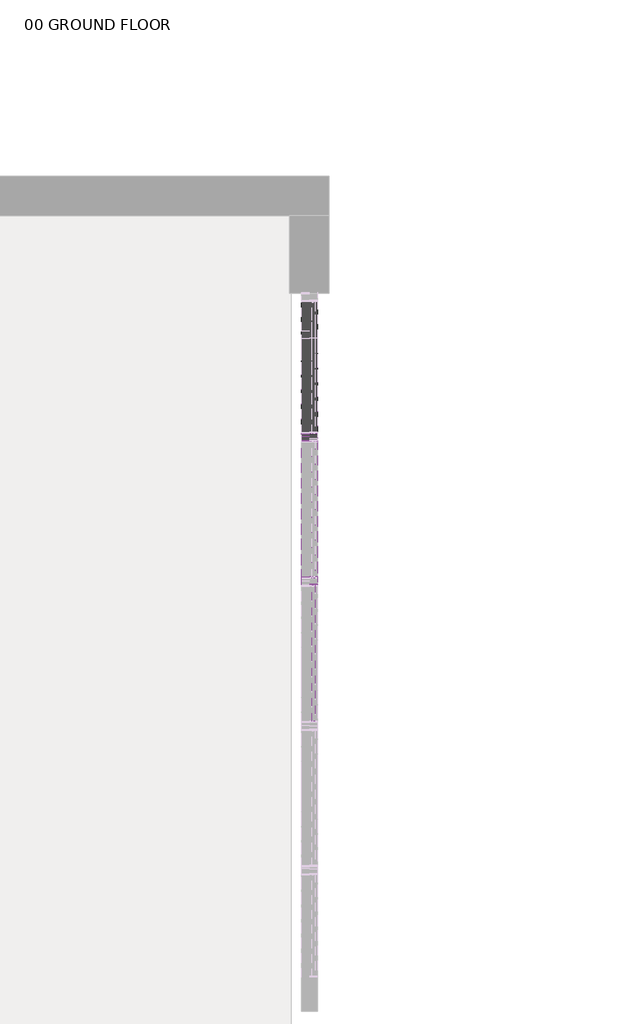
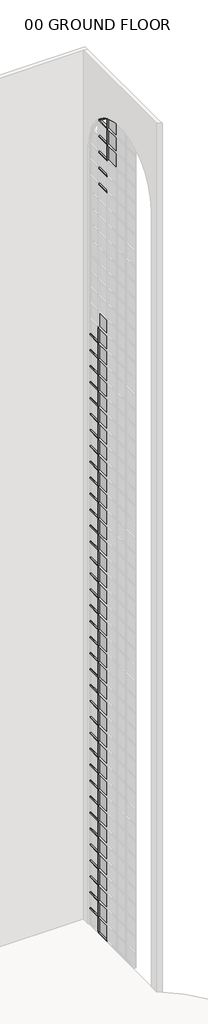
# One storey, part 31 of 33: 85 members, 42 plates.
"""IFC4 building model written with IfcOpenShell, lengths in millimetres."""

from ifc_helpers import new_model, si_unit, origin, place, context, project, spatial, transform, mapped, element, save
from components import member_14f97ceb, member_c70f70ef, member_d1490fb0, member_2b49869a, member_f6015b47, member_0202919b, system_panel_glazed_c90b0923, system_panel_glazed_ba000c98, system_panel_glazed_fea3c0e9

model = new_model("IFC4")

# Units and contexts
model_context = context("Model", 3, world=origin())
ifc_project = project(units=[si_unit("LENGTHUNIT", "METRE", prefix="MILLI")], contexts=[model_context])

# Site, building, storey
site = spatial("IfcSite", under=ifc_project)
building = spatial("IfcBuilding", under=site)
storey = spatial("IfcBuildingStorey", under=building, Name="00 GROUND FLOOR", Elevation=0.0)

# Members
placement = place(None, origin())
member_shape = member_14f97ceb(model_context)
element("IfcMember", 1, ObjectType="Rectangular Mullion : 2.5\" x 5\" rectangular", at=placement, inside=storey, context=model_context, shape_type="MappedRepresentation", body=[
    mapped(member_shape, transform((44184.4050515, 31910.1107141, 0.0), x_axis=(0.0, 0.0, -1.0), y_axis=(-1.0, 0.0, 0.0), z_axis=(0.0, 1.0, 0.0))),
])
member_2_shape = member_c70f70ef(model_context)
element("IfcMember", 2, ObjectType="Rectangular Mullion : 2.5\" x 5\" rectangular", at=placement, inside=storey, context=model_context, shape_type="MappedRepresentation", body=[
    mapped(member_2_shape, transform((44184.4050515, 31973.6107141, 1219.2), x_axis=(0.0, 0.0, 1.0), y_axis=(-1.0, 0.0, 0.0), z_axis=(0.0, -1.0, 0.0))),
])
element("IfcMember", 3, ObjectType="Rectangular Mullion : 2.5\" x 5\" rectangular", at=placement, inside=storey, context=model_context, shape_type="MappedRepresentation", body=[
    mapped(member_2_shape, transform((44184.4050515, 31973.6107141, 2438.4), x_axis=(0.0, 0.0, 1.0), y_axis=(-1.0, 0.0, 0.0), z_axis=(0.0, -1.0, 0.0))),
])
element("IfcMember", 4, ObjectType="Rectangular Mullion : 2.5\" x 5\" rectangular", at=placement, inside=storey, context=model_context, shape_type="MappedRepresentation", body=[
    mapped(member_2_shape, transform((44184.4050515, 31973.6107141, 3657.6), x_axis=(0.0, 0.0, 1.0), y_axis=(-1.0, 0.0, 0.0), z_axis=(0.0, -1.0, 0.0))),
])
element("IfcMember", 5, ObjectType="Rectangular Mullion : 2.5\" x 5\" rectangular", at=placement, inside=storey, context=model_context, shape_type="MappedRepresentation", body=[
    mapped(member_2_shape, transform((44184.4050515, 31973.6107141, 4876.8), x_axis=(0.0, 0.0, 1.0), y_axis=(-1.0, 0.0, 0.0), z_axis=(0.0, -1.0, 0.0))),
])
element("IfcMember", 6, ObjectType="Rectangular Mullion : 2.5\" x 5\" rectangular", at=placement, inside=storey, context=model_context, shape_type="MappedRepresentation", body=[
    mapped(member_2_shape, transform((44184.4050515, 31973.6107141, 6096.0), x_axis=(0.0, 0.0, 1.0), y_axis=(-1.0, 0.0, 0.0), z_axis=(0.0, -1.0, 0.0))),
])
element("IfcMember", 7, ObjectType="Rectangular Mullion : 2.5\" x 5\" rectangular", at=placement, inside=storey, context=model_context, shape_type="MappedRepresentation", body=[
    mapped(member_2_shape, transform((44184.4050515, 31973.6107141, 7315.2), x_axis=(0.0, 0.0, 1.0), y_axis=(-1.0, 0.0, 0.0), z_axis=(0.0, -1.0, 0.0))),
])
element("IfcMember", 8, ObjectType="Rectangular Mullion : 2.5\" x 5\" rectangular", at=placement, inside=storey, context=model_context, shape_type="MappedRepresentation", body=[
    mapped(member_2_shape, transform((44184.4050515, 31973.6107141, 8534.4), x_axis=(0.0, 0.0, 1.0), y_axis=(-1.0, 0.0, 0.0), z_axis=(0.0, -1.0, 0.0))),
])
element("IfcMember", 9, ObjectType="Rectangular Mullion : 2.5\" x 5\" rectangular", at=placement, inside=storey, context=model_context, shape_type="MappedRepresentation", body=[
    mapped(member_2_shape, transform((44184.4050515, 31973.6107141, 9753.6), x_axis=(0.0, 0.0, 1.0), y_axis=(-1.0, 0.0, 0.0), z_axis=(0.0, -1.0, 0.0))),
])
element("IfcMember", 10, ObjectType="Rectangular Mullion : 2.5\" x 5\" rectangular", at=placement, inside=storey, context=model_context, shape_type="MappedRepresentation", body=[
    mapped(member_2_shape, transform((44184.4050515, 31973.6107141, 10972.8), x_axis=(0.0, 0.0, 1.0), y_axis=(-1.0, 0.0, 0.0), z_axis=(0.0, -1.0, 0.0))),
])
element("IfcMember", 11, ObjectType="Rectangular Mullion : 2.5\" x 5\" rectangular", at=placement, inside=storey, context=model_context, shape_type="MappedRepresentation", body=[
    mapped(member_2_shape, transform((44184.4050515, 31973.6107141, 12192.0), x_axis=(0.0, 0.0, 1.0), y_axis=(-1.0, 0.0, 0.0), z_axis=(0.0, -1.0, 0.0))),
])
element("IfcMember", 12, ObjectType="Rectangular Mullion : 2.5\" x 5\" rectangular", at=placement, inside=storey, context=model_context, shape_type="MappedRepresentation", body=[
    mapped(member_2_shape, transform((44184.4050515, 31973.6107141, 13411.2), x_axis=(0.0, 0.0, 1.0), y_axis=(-1.0, 0.0, 0.0), z_axis=(0.0, -1.0, 0.0))),
])
element("IfcMember", 13, ObjectType="Rectangular Mullion : 2.5\" x 5\" rectangular", at=placement, inside=storey, context=model_context, shape_type="MappedRepresentation", body=[
    mapped(member_2_shape, transform((44184.4050515, 31973.6107141, 14630.4), x_axis=(0.0, 0.0, 1.0), y_axis=(-1.0, 0.0, 0.0), z_axis=(0.0, -1.0, 0.0))),
])
element("IfcMember", 14, ObjectType="Rectangular Mullion : 2.5\" x 5\" rectangular", at=placement, inside=storey, context=model_context, shape_type="MappedRepresentation", body=[
    mapped(member_2_shape, transform((44184.4050515, 31973.6107141, 15849.6), x_axis=(0.0, 0.0, 1.0), y_axis=(-1.0, 0.0, 0.0), z_axis=(0.0, -1.0, 0.0))),
])
element("IfcMember", 15, ObjectType="Rectangular Mullion : 2.5\" x 5\" rectangular", at=placement, inside=storey, context=model_context, shape_type="MappedRepresentation", body=[
    mapped(member_2_shape, transform((44184.4050515, 31973.6107141, 17068.8), x_axis=(0.0, 0.0, 1.0), y_axis=(-1.0, 0.0, 0.0), z_axis=(0.0, -1.0, 0.0))),
])
element("IfcMember", 16, ObjectType="Rectangular Mullion : 2.5\" x 5\" rectangular", at=placement, inside=storey, context=model_context, shape_type="MappedRepresentation", body=[
    mapped(member_2_shape, transform((44184.4050515, 31973.6107141, 18288.0), x_axis=(0.0, 0.0, 1.0), y_axis=(-1.0, 0.0, 0.0), z_axis=(0.0, -1.0, 0.0))),
])
element("IfcMember", 17, ObjectType="Rectangular Mullion : 2.5\" x 5\" rectangular", at=placement, inside=storey, context=model_context, shape_type="MappedRepresentation", body=[
    mapped(member_2_shape, transform((44184.4050515, 31973.6107141, 19507.2), x_axis=(0.0, 0.0, 1.0), y_axis=(-1.0, 0.0, 0.0), z_axis=(0.0, -1.0, 0.0))),
])
element("IfcMember", 18, ObjectType="Rectangular Mullion : 2.5\" x 5\" rectangular", at=placement, inside=storey, context=model_context, shape_type="MappedRepresentation", body=[
    mapped(member_2_shape, transform((44184.4050515, 31973.6107141, 20726.4), x_axis=(0.0, 0.0, 1.0), y_axis=(-1.0, 0.0, 0.0), z_axis=(0.0, -1.0, 0.0))),
])
element("IfcMember", 19, ObjectType="Rectangular Mullion : 2.5\" x 5\" rectangular", at=placement, inside=storey, context=model_context, shape_type="MappedRepresentation", body=[
    mapped(member_2_shape, transform((44184.4050515, 31973.6107141, 21945.6), x_axis=(0.0, 0.0, 1.0), y_axis=(-1.0, 0.0, 0.0), z_axis=(0.0, -1.0, 0.0))),
])
element("IfcMember", 20, ObjectType="Rectangular Mullion : 2.5\" x 5\" rectangular", at=placement, inside=storey, context=model_context, shape_type="MappedRepresentation", body=[
    mapped(member_2_shape, transform((44184.4050515, 31973.6107141, 23164.8), x_axis=(0.0, 0.0, 1.0), y_axis=(-1.0, 0.0, 0.0), z_axis=(0.0, -1.0, 0.0))),
])
element("IfcMember", 21, ObjectType="Rectangular Mullion : 2.5\" x 5\" rectangular", at=placement, inside=storey, context=model_context, shape_type="MappedRepresentation", body=[
    mapped(member_2_shape, transform((44184.4050515, 31973.6107141, 24384.0), x_axis=(0.0, 0.0, 1.0), y_axis=(-1.0, 0.0, 0.0), z_axis=(0.0, -1.0, 0.0))),
])
element("IfcMember", 22, ObjectType="Rectangular Mullion : 2.5\" x 5\" rectangular", at=placement, inside=storey, context=model_context, shape_type="MappedRepresentation", body=[
    mapped(member_2_shape, transform((44184.4050515, 31973.6107141, 25603.2), x_axis=(0.0, 0.0, 1.0), y_axis=(-1.0, 0.0, 0.0), z_axis=(0.0, -1.0, 0.0))),
])
element("IfcMember", 23, ObjectType="Rectangular Mullion : 2.5\" x 5\" rectangular", at=placement, inside=storey, context=model_context, shape_type="MappedRepresentation", body=[
    mapped(member_2_shape, transform((44184.4050515, 31973.6107141, 26822.4), x_axis=(0.0, 0.0, 1.0), y_axis=(-1.0, 0.0, 0.0), z_axis=(0.0, -1.0, 0.0))),
])
element("IfcMember", 24, ObjectType="Rectangular Mullion : 2.5\" x 5\" rectangular", at=placement, inside=storey, context=model_context, shape_type="MappedRepresentation", body=[
    mapped(member_2_shape, transform((44184.4050515, 31973.6107141, 28041.6), x_axis=(0.0, 0.0, 1.0), y_axis=(-1.0, 0.0, 0.0), z_axis=(0.0, -1.0, 0.0))),
])
element("IfcMember", 25, ObjectType="Rectangular Mullion : 2.5\" x 5\" rectangular", at=placement, inside=storey, context=model_context, shape_type="MappedRepresentation", body=[
    mapped(member_2_shape, transform((44184.4050515, 31973.6107141, 29260.8), x_axis=(0.0, 0.0, 1.0), y_axis=(-1.0, 0.0, 0.0), z_axis=(0.0, -1.0, 0.0))),
])
element("IfcMember", 26, ObjectType="Rectangular Mullion : 2.5\" x 5\" rectangular", at=placement, inside=storey, context=model_context, shape_type="MappedRepresentation", body=[
    mapped(member_2_shape, transform((44184.4050515, 31973.6107141, 30480.0), x_axis=(0.0, 0.0, 1.0), y_axis=(-1.0, 0.0, 0.0), z_axis=(0.0, -1.0, 0.0))),
])
element("IfcMember", 27, ObjectType="Rectangular Mullion : 2.5\" x 5\" rectangular", at=placement, inside=storey, context=model_context, shape_type="MappedRepresentation", body=[
    mapped(member_2_shape, transform((44184.4050515, 31973.6107141, 31699.2), x_axis=(0.0, 0.0, 1.0), y_axis=(-1.0, 0.0, 0.0), z_axis=(0.0, -1.0, 0.0))),
])
element("IfcMember", 28, ObjectType="Rectangular Mullion : 2.5\" x 5\" rectangular", at=placement, inside=storey, context=model_context, shape_type="MappedRepresentation", body=[
    mapped(member_2_shape, transform((44184.4050515, 31973.6107141, 32918.4), x_axis=(0.0, 0.0, 1.0), y_axis=(-1.0, 0.0, 0.0), z_axis=(0.0, -1.0, 0.0))),
])
element("IfcMember", 29, ObjectType="Rectangular Mullion : 2.5\" x 5\" rectangular", at=placement, inside=storey, context=model_context, shape_type="MappedRepresentation", body=[
    mapped(member_2_shape, transform((44184.4050515, 31973.6107141, 34137.6), x_axis=(0.0, 0.0, 1.0), y_axis=(-1.0, 0.0, 0.0), z_axis=(0.0, -1.0, 0.0))),
])
element("IfcMember", 30, ObjectType="Rectangular Mullion : 2.5\" x 5\" rectangular", at=placement, inside=storey, context=model_context, shape_type="MappedRepresentation", body=[
    mapped(member_2_shape, transform((44184.4050515, 31973.6107141, 35356.8), x_axis=(0.0, 0.0, 1.0), y_axis=(-1.0, 0.0, 0.0), z_axis=(0.0, -1.0, 0.0))),
])
element("IfcMember", 31, ObjectType="Rectangular Mullion : 2.5\" x 5\" rectangular", at=placement, inside=storey, context=model_context, shape_type="MappedRepresentation", body=[
    mapped(member_2_shape, transform((44184.4050515, 31973.6107141, 36576.0), x_axis=(0.0, 0.0, 1.0), y_axis=(-1.0, 0.0, 0.0), z_axis=(0.0, -1.0, 0.0))),
])
element("IfcMember", 32, ObjectType="Rectangular Mullion : 2.5\" x 5\" rectangular", at=placement, inside=storey, context=model_context, shape_type="MappedRepresentation", body=[
    mapped(member_2_shape, transform((44184.4050515, 31973.6107141, 37795.2), x_axis=(0.0, 0.0, 1.0), y_axis=(-1.0, 0.0, 0.0), z_axis=(0.0, -1.0, 0.0))),
])
element("IfcMember", 33, ObjectType="Rectangular Mullion : 2.5\" x 5\" rectangular", at=placement, inside=storey, context=model_context, shape_type="MappedRepresentation", body=[
    mapped(member_2_shape, transform((44184.4050515, 31973.6107141, 39014.4), x_axis=(0.0, 0.0, 1.0), y_axis=(-1.0, 0.0, 0.0), z_axis=(0.0, -1.0, 0.0))),
])
element("IfcMember", 34, ObjectType="Rectangular Mullion : 2.5\" x 5\" rectangular", at=placement, inside=storey, context=model_context, shape_type="MappedRepresentation", body=[
    mapped(member_2_shape, transform((44184.4050515, 31973.6107141, 40233.6), x_axis=(0.0, 0.0, 1.0), y_axis=(-1.0, 0.0, 0.0), z_axis=(0.0, -1.0, 0.0))),
])
element("IfcMember", 35, ObjectType="Rectangular Mullion : 2.5\" x 5\" rectangular", at=placement, inside=storey, context=model_context, shape_type="MappedRepresentation", body=[
    mapped(member_2_shape, transform((44184.4050515, 31973.6107141, 41452.8), x_axis=(0.0, 0.0, 1.0), y_axis=(-1.0, 0.0, 0.0), z_axis=(0.0, -1.0, 0.0))),
])
element("IfcMember", 36, ObjectType="Rectangular Mullion : 2.5\" x 5\" rectangular", at=placement, inside=storey, context=model_context, shape_type="MappedRepresentation", body=[
    mapped(member_2_shape, transform((44184.4050515, 31973.6107141, 42672.0), x_axis=(0.0, 0.0, 1.0), y_axis=(-1.0, 0.0, 0.0), z_axis=(0.0, -1.0, 0.0))),
])
element("IfcMember", 37, ObjectType="Rectangular Mullion : 2.5\" x 5\" rectangular", at=placement, inside=storey, context=model_context, shape_type="MappedRepresentation", body=[
    mapped(member_2_shape, transform((44184.4050515, 31973.6107141, 43891.2), x_axis=(0.0, 0.0, 1.0), y_axis=(-1.0, 0.0, 0.0), z_axis=(0.0, -1.0, 0.0))),
])
element("IfcMember", 38, ObjectType="Rectangular Mullion : 2.5\" x 5\" rectangular", at=placement, inside=storey, context=model_context, shape_type="MappedRepresentation", body=[
    mapped(member_2_shape, transform((44184.4050515, 31973.6107141, 45110.4), x_axis=(0.0, 0.0, 1.0), y_axis=(-1.0, 0.0, 0.0), z_axis=(0.0, -1.0, 0.0))),
])
member_3_shape = member_d1490fb0(model_context)
element("IfcMember", 39, ObjectType="Rectangular Mullion : 2.5\" x 5\" rectangular", at=placement, inside=storey, context=model_context, shape_type="MappedRepresentation", body=[
    mapped(member_3_shape, transform((44184.4050515, 30841.4964284, 57302.4), x_axis=(0.0, 0.0, 1.0), y_axis=(-1.0, 0.0, 0.0), z_axis=(0.0, -1.0, 0.0))),
])
element("IfcMember", 40, ObjectType="Rectangular Mullion : 2.5\" x 5\" rectangular", at=placement, inside=storey, context=model_context, shape_type="MappedRepresentation", body=[
    mapped(member_3_shape, transform((44184.4050515, 30841.4964284, 58521.6), x_axis=(0.0, 0.0, 1.0), y_axis=(-1.0, 0.0, 0.0), z_axis=(0.0, -1.0, 0.0))),
])
element("IfcMember", 41, ObjectType="Rectangular Mullion : 2.5\" x 5\" rectangular", at=placement, inside=storey, context=model_context, shape_type="MappedRepresentation", body=[
    mapped(member_3_shape, transform((44184.4050515, 30841.4964284, 59740.8), x_axis=(0.0, 0.0, 1.0), y_axis=(-1.0, 0.0, 0.0), z_axis=(0.0, -1.0, 0.0))),
])
element("IfcMember", 42, ObjectType="Rectangular Mullion : 2.5\" x 5\" rectangular", at=placement, inside=storey, context=model_context, shape_type="MappedRepresentation", body=[
    mapped(member_3_shape, transform((44184.4050515, 30841.4964284, 60960.0), x_axis=(0.0, 0.0, 1.0), y_axis=(-1.0, 0.0, 0.0), z_axis=(0.0, -1.0, 0.0))),
])
element("IfcMember", 43, ObjectType="Rectangular Mullion : 2.5\" x 5\" rectangular", at=placement, inside=storey, context=model_context, shape_type="MappedRepresentation", body=[
    mapped(member_3_shape, transform((44184.4050515, 30841.4964284, 62179.2), x_axis=(0.0, 0.0, 1.0), y_axis=(-1.0, 0.0, 0.0), z_axis=(0.0, -1.0, 0.0))),
])
member_4_shape = member_2b49869a(model_context)
element("IfcMember", 44, ObjectType="Rectangular Mullion : 2.5\" x 5\" rectangular", at=placement, inside=storey, context=model_context, shape_type="MappedRepresentation", body=[
    mapped(member_4_shape, transform((44184.4050515, 31941.8607141, 0.0), x_axis=(0.0, -1.0, 0.0), y_axis=(-1.0, 0.0, 0.0), z_axis=(0.0, 0.0, -1.0))),
])
element("IfcMember", 45, ObjectType="Rectangular Mullion : 2.5\" x 5\" rectangular", at=placement, inside=storey, context=model_context, shape_type="MappedRepresentation", body=[
    mapped(member_4_shape, transform((44184.4050515, 31941.8607141, 1219.2), x_axis=(0.0, -1.0, 0.0), y_axis=(-1.0, 0.0, 0.0), z_axis=(0.0, 0.0, -1.0))),
])
element("IfcMember", 46, ObjectType="Rectangular Mullion : 2.5\" x 5\" rectangular", at=placement, inside=storey, context=model_context, shape_type="MappedRepresentation", body=[
    mapped(member_4_shape, transform((44184.4050515, 31941.8607141, 2438.4), x_axis=(0.0, -1.0, 0.0), y_axis=(-1.0, 0.0, 0.0), z_axis=(0.0, 0.0, -1.0))),
])
element("IfcMember", 47, ObjectType="Rectangular Mullion : 2.5\" x 5\" rectangular", at=placement, inside=storey, context=model_context, shape_type="MappedRepresentation", body=[
    mapped(member_4_shape, transform((44184.4050515, 31941.8607141, 3657.6), x_axis=(0.0, -1.0, 0.0), y_axis=(-1.0, 0.0, 0.0), z_axis=(0.0, 0.0, -1.0))),
])
element("IfcMember", 48, ObjectType="Rectangular Mullion : 2.5\" x 5\" rectangular", at=placement, inside=storey, context=model_context, shape_type="MappedRepresentation", body=[
    mapped(member_4_shape, transform((44184.4050515, 31941.8607141, 4876.8), x_axis=(0.0, -1.0, 0.0), y_axis=(-1.0, 0.0, 0.0), z_axis=(0.0, 0.0, -1.0))),
])
element("IfcMember", 49, ObjectType="Rectangular Mullion : 2.5\" x 5\" rectangular", at=placement, inside=storey, context=model_context, shape_type="MappedRepresentation", body=[
    mapped(member_4_shape, transform((44184.4050515, 31941.8607141, 6096.0), x_axis=(0.0, -1.0, 0.0), y_axis=(-1.0, 0.0, 0.0), z_axis=(0.0, 0.0, -1.0))),
])
element("IfcMember", 50, ObjectType="Rectangular Mullion : 2.5\" x 5\" rectangular", at=placement, inside=storey, context=model_context, shape_type="MappedRepresentation", body=[
    mapped(member_4_shape, transform((44184.4050515, 31941.8607141, 7315.2), x_axis=(0.0, -1.0, 0.0), y_axis=(-1.0, 0.0, 0.0), z_axis=(0.0, 0.0, -1.0))),
])
element("IfcMember", 51, ObjectType="Rectangular Mullion : 2.5\" x 5\" rectangular", at=placement, inside=storey, context=model_context, shape_type="MappedRepresentation", body=[
    mapped(member_4_shape, transform((44184.4050515, 31941.8607141, 8534.4), x_axis=(0.0, -1.0, 0.0), y_axis=(-1.0, 0.0, 0.0), z_axis=(0.0, 0.0, -1.0))),
])
element("IfcMember", 52, ObjectType="Rectangular Mullion : 2.5\" x 5\" rectangular", at=placement, inside=storey, context=model_context, shape_type="MappedRepresentation", body=[
    mapped(member_4_shape, transform((44184.4050515, 31941.8607141, 9753.6), x_axis=(0.0, -1.0, 0.0), y_axis=(-1.0, 0.0, 0.0), z_axis=(0.0, 0.0, -1.0))),
])
element("IfcMember", 53, ObjectType="Rectangular Mullion : 2.5\" x 5\" rectangular", at=placement, inside=storey, context=model_context, shape_type="MappedRepresentation", body=[
    mapped(member_4_shape, transform((44184.4050515, 31941.8607141, 10972.8), x_axis=(0.0, -1.0, 0.0), y_axis=(-1.0, 0.0, 0.0), z_axis=(0.0, 0.0, -1.0))),
])
element("IfcMember", 54, ObjectType="Rectangular Mullion : 2.5\" x 5\" rectangular", at=placement, inside=storey, context=model_context, shape_type="MappedRepresentation", body=[
    mapped(member_4_shape, transform((44184.4050515, 31941.8607141, 12192.0), x_axis=(0.0, -1.0, 0.0), y_axis=(-1.0, 0.0, 0.0), z_axis=(0.0, 0.0, -1.0))),
])
element("IfcMember", 55, ObjectType="Rectangular Mullion : 2.5\" x 5\" rectangular", at=placement, inside=storey, context=model_context, shape_type="MappedRepresentation", body=[
    mapped(member_4_shape, transform((44184.4050515, 31941.8607141, 13411.2), x_axis=(0.0, -1.0, 0.0), y_axis=(-1.0, 0.0, 0.0), z_axis=(0.0, 0.0, -1.0))),
])
element("IfcMember", 56, ObjectType="Rectangular Mullion : 2.5\" x 5\" rectangular", at=placement, inside=storey, context=model_context, shape_type="MappedRepresentation", body=[
    mapped(member_4_shape, transform((44184.4050515, 31941.8607141, 14630.4), x_axis=(0.0, -1.0, 0.0), y_axis=(-1.0, 0.0, 0.0), z_axis=(0.0, 0.0, -1.0))),
])
element("IfcMember", 57, ObjectType="Rectangular Mullion : 2.5\" x 5\" rectangular", at=placement, inside=storey, context=model_context, shape_type="MappedRepresentation", body=[
    mapped(member_4_shape, transform((44184.4050515, 31941.8607141, 15849.6), x_axis=(0.0, -1.0, 0.0), y_axis=(-1.0, 0.0, 0.0), z_axis=(0.0, 0.0, -1.0))),
])
element("IfcMember", 58, ObjectType="Rectangular Mullion : 2.5\" x 5\" rectangular", at=placement, inside=storey, context=model_context, shape_type="MappedRepresentation", body=[
    mapped(member_4_shape, transform((44184.4050515, 31941.8607141, 17068.8), x_axis=(0.0, -1.0, 0.0), y_axis=(-1.0, 0.0, 0.0), z_axis=(0.0, 0.0, -1.0))),
])
element("IfcMember", 59, ObjectType="Rectangular Mullion : 2.5\" x 5\" rectangular", at=placement, inside=storey, context=model_context, shape_type="MappedRepresentation", body=[
    mapped(member_4_shape, transform((44184.4050515, 31941.8607141, 18288.0), x_axis=(0.0, -1.0, 0.0), y_axis=(-1.0, 0.0, 0.0), z_axis=(0.0, 0.0, -1.0))),
])
element("IfcMember", 60, ObjectType="Rectangular Mullion : 2.5\" x 5\" rectangular", at=placement, inside=storey, context=model_context, shape_type="MappedRepresentation", body=[
    mapped(member_4_shape, transform((44184.4050515, 31941.8607141, 19507.2), x_axis=(0.0, -1.0, 0.0), y_axis=(-1.0, 0.0, 0.0), z_axis=(0.0, 0.0, -1.0))),
])
element("IfcMember", 61, ObjectType="Rectangular Mullion : 2.5\" x 5\" rectangular", at=placement, inside=storey, context=model_context, shape_type="MappedRepresentation", body=[
    mapped(member_4_shape, transform((44184.4050515, 31941.8607141, 20726.4), x_axis=(0.0, -1.0, 0.0), y_axis=(-1.0, 0.0, 0.0), z_axis=(0.0, 0.0, -1.0))),
])
element("IfcMember", 62, ObjectType="Rectangular Mullion : 2.5\" x 5\" rectangular", at=placement, inside=storey, context=model_context, shape_type="MappedRepresentation", body=[
    mapped(member_4_shape, transform((44184.4050515, 31941.8607141, 21945.6), x_axis=(0.0, -1.0, 0.0), y_axis=(-1.0, 0.0, 0.0), z_axis=(0.0, 0.0, -1.0))),
])
element("IfcMember", 63, ObjectType="Rectangular Mullion : 2.5\" x 5\" rectangular", at=placement, inside=storey, context=model_context, shape_type="MappedRepresentation", body=[
    mapped(member_4_shape, transform((44184.4050515, 31941.8607141, 23164.8), x_axis=(0.0, -1.0, 0.0), y_axis=(-1.0, 0.0, 0.0), z_axis=(0.0, 0.0, -1.0))),
])
element("IfcMember", 64, ObjectType="Rectangular Mullion : 2.5\" x 5\" rectangular", at=placement, inside=storey, context=model_context, shape_type="MappedRepresentation", body=[
    mapped(member_4_shape, transform((44184.4050515, 31941.8607141, 24384.0), x_axis=(0.0, -1.0, 0.0), y_axis=(-1.0, 0.0, 0.0), z_axis=(0.0, 0.0, -1.0))),
])
element("IfcMember", 65, ObjectType="Rectangular Mullion : 2.5\" x 5\" rectangular", at=placement, inside=storey, context=model_context, shape_type="MappedRepresentation", body=[
    mapped(member_4_shape, transform((44184.4050515, 31941.8607141, 25603.2), x_axis=(0.0, -1.0, 0.0), y_axis=(-1.0, 0.0, 0.0), z_axis=(0.0, 0.0, -1.0))),
])
element("IfcMember", 66, ObjectType="Rectangular Mullion : 2.5\" x 5\" rectangular", at=placement, inside=storey, context=model_context, shape_type="MappedRepresentation", body=[
    mapped(member_4_shape, transform((44184.4050515, 31941.8607141, 26822.4), x_axis=(0.0, -1.0, 0.0), y_axis=(-1.0, 0.0, 0.0), z_axis=(0.0, 0.0, -1.0))),
])
element("IfcMember", 67, ObjectType="Rectangular Mullion : 2.5\" x 5\" rectangular", at=placement, inside=storey, context=model_context, shape_type="MappedRepresentation", body=[
    mapped(member_4_shape, transform((44184.4050515, 31941.8607141, 28041.6), x_axis=(0.0, -1.0, 0.0), y_axis=(-1.0, 0.0, 0.0), z_axis=(0.0, 0.0, -1.0))),
])
element("IfcMember", 68, ObjectType="Rectangular Mullion : 2.5\" x 5\" rectangular", at=placement, inside=storey, context=model_context, shape_type="MappedRepresentation", body=[
    mapped(member_4_shape, transform((44184.4050515, 31941.8607141, 29260.8), x_axis=(0.0, -1.0, 0.0), y_axis=(-1.0, 0.0, 0.0), z_axis=(0.0, 0.0, -1.0))),
])
element("IfcMember", 69, ObjectType="Rectangular Mullion : 2.5\" x 5\" rectangular", at=placement, inside=storey, context=model_context, shape_type="MappedRepresentation", body=[
    mapped(member_4_shape, transform((44184.4050515, 31941.8607141, 30480.0), x_axis=(0.0, -1.0, 0.0), y_axis=(-1.0, 0.0, 0.0), z_axis=(0.0, 0.0, -1.0))),
])
element("IfcMember", 70, ObjectType="Rectangular Mullion : 2.5\" x 5\" rectangular", at=placement, inside=storey, context=model_context, shape_type="MappedRepresentation", body=[
    mapped(member_4_shape, transform((44184.4050515, 31941.8607141, 31699.2), x_axis=(0.0, -1.0, 0.0), y_axis=(-1.0, 0.0, 0.0), z_axis=(0.0, 0.0, -1.0))),
])
element("IfcMember", 71, ObjectType="Rectangular Mullion : 2.5\" x 5\" rectangular", at=placement, inside=storey, context=model_context, shape_type="MappedRepresentation", body=[
    mapped(member_4_shape, transform((44184.4050515, 31941.8607141, 32918.4), x_axis=(0.0, -1.0, 0.0), y_axis=(-1.0, 0.0, 0.0), z_axis=(0.0, 0.0, -1.0))),
])
element("IfcMember", 72, ObjectType="Rectangular Mullion : 2.5\" x 5\" rectangular", at=placement, inside=storey, context=model_context, shape_type="MappedRepresentation", body=[
    mapped(member_4_shape, transform((44184.4050515, 31941.8607141, 34137.6), x_axis=(0.0, -1.0, 0.0), y_axis=(-1.0, 0.0, 0.0), z_axis=(0.0, 0.0, -1.0))),
])
element("IfcMember", 73, ObjectType="Rectangular Mullion : 2.5\" x 5\" rectangular", at=placement, inside=storey, context=model_context, shape_type="MappedRepresentation", body=[
    mapped(member_4_shape, transform((44184.4050515, 31941.8607141, 35356.8), x_axis=(0.0, -1.0, 0.0), y_axis=(-1.0, 0.0, 0.0), z_axis=(0.0, 0.0, -1.0))),
])
element("IfcMember", 74, ObjectType="Rectangular Mullion : 2.5\" x 5\" rectangular", at=placement, inside=storey, context=model_context, shape_type="MappedRepresentation", body=[
    mapped(member_4_shape, transform((44184.4050515, 31941.8607141, 36576.0), x_axis=(0.0, -1.0, 0.0), y_axis=(-1.0, 0.0, 0.0), z_axis=(0.0, 0.0, -1.0))),
])
element("IfcMember", 75, ObjectType="Rectangular Mullion : 2.5\" x 5\" rectangular", at=placement, inside=storey, context=model_context, shape_type="MappedRepresentation", body=[
    mapped(member_4_shape, transform((44184.4050515, 31941.8607141, 37795.2), x_axis=(0.0, -1.0, 0.0), y_axis=(-1.0, 0.0, 0.0), z_axis=(0.0, 0.0, -1.0))),
])
element("IfcMember", 76, ObjectType="Rectangular Mullion : 2.5\" x 5\" rectangular", at=placement, inside=storey, context=model_context, shape_type="MappedRepresentation", body=[
    mapped(member_4_shape, transform((44184.4050515, 31941.8607141, 39014.4), x_axis=(0.0, -1.0, 0.0), y_axis=(-1.0, 0.0, 0.0), z_axis=(0.0, 0.0, -1.0))),
])
element("IfcMember", 77, ObjectType="Rectangular Mullion : 2.5\" x 5\" rectangular", at=placement, inside=storey, context=model_context, shape_type="MappedRepresentation", body=[
    mapped(member_4_shape, transform((44184.4050515, 31941.8607141, 40233.6), x_axis=(0.0, -1.0, 0.0), y_axis=(-1.0, 0.0, 0.0), z_axis=(0.0, 0.0, -1.0))),
])
element("IfcMember", 78, ObjectType="Rectangular Mullion : 2.5\" x 5\" rectangular", at=placement, inside=storey, context=model_context, shape_type="MappedRepresentation", body=[
    mapped(member_4_shape, transform((44184.4050515, 31941.8607141, 41452.8), x_axis=(0.0, -1.0, 0.0), y_axis=(-1.0, 0.0, 0.0), z_axis=(0.0, 0.0, -1.0))),
])
element("IfcMember", 79, ObjectType="Rectangular Mullion : 2.5\" x 5\" rectangular", at=placement, inside=storey, context=model_context, shape_type="MappedRepresentation", body=[
    mapped(member_4_shape, transform((44184.4050515, 31941.8607141, 42672.0), x_axis=(0.0, -1.0, 0.0), y_axis=(-1.0, 0.0, 0.0), z_axis=(0.0, 0.0, -1.0))),
])
element("IfcMember", 80, ObjectType="Rectangular Mullion : 2.5\" x 5\" rectangular", at=placement, inside=storey, context=model_context, shape_type="MappedRepresentation", body=[
    mapped(member_4_shape, transform((44184.4050515, 31941.8607141, 43891.2), x_axis=(0.0, -1.0, 0.0), y_axis=(-1.0, 0.0, 0.0), z_axis=(0.0, 0.0, -1.0))),
])
element("IfcMember", 81, ObjectType="Rectangular Mullion : 2.5\" x 5\" rectangular", at=placement, inside=storey, context=model_context, shape_type="MappedRepresentation", body=[
    mapped(member_4_shape, transform((44184.4050515, 31941.8607141, 45110.4), x_axis=(0.0, -1.0, 0.0), y_axis=(-1.0, 0.0, 0.0), z_axis=(0.0, 0.0, -1.0))),
])
element("IfcMember", 82, ObjectType="Rectangular Mullion : 2.5\" x 5\" rectangular", at=placement, inside=storey, context=model_context, shape_type="MappedRepresentation", body=[
    mapped(member_4_shape, transform((44184.4050515, 30809.7464284, 59740.8), x_axis=(0.0, -1.0, 0.0), y_axis=(-1.0, 0.0, 0.0), z_axis=(0.0, 0.0, -1.0))),
])
element("IfcMember", 83, ObjectType="Rectangular Mullion : 2.5\" x 5\" rectangular", at=placement, inside=storey, context=model_context, shape_type="MappedRepresentation", body=[
    mapped(member_4_shape, transform((44184.4050515, 30809.7464284, 60960.0), x_axis=(0.0, -1.0, 0.0), y_axis=(-1.0, 0.0, 0.0), z_axis=(0.0, 0.0, -1.0))),
])
member_5_shape = member_f6015b47(model_context)
element("IfcMember", 84, ObjectType="Rectangular Mullion : 2.5\" x 5\" rectangular", at=placement, inside=storey, context=model_context, shape_type="MappedRepresentation", body=[
    mapped(member_5_shape, transform((44184.4050515, 30809.7464284, 63016.0597145), x_axis=(0.0, 0.4285714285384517, 0.9035079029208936), y_axis=(-1.0, 0.0, 0.0), z_axis=(0.0, -0.9035079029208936, 0.4285714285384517))),
])
member_6_shape = member_0202919b(model_context)
element("IfcMember", 85, ObjectType="Rectangular Mullion : 2.5\" x 5\" rectangular", at=placement, inside=storey, context=model_context, shape_type="MappedRepresentation", body=[
    mapped(member_6_shape, transform((44184.4050515, 30809.7464284, 62179.2), x_axis=(0.0, -1.0, 0.0), y_axis=(-1.0, 0.0, 0.0), z_axis=(0.0, 0.0, -1.0))),
])

# Plates
system_panel_glazed_shape = system_panel_glazed_c90b0923(model_context)
element("IfcPlate", 86, ObjectType="System Panel : Glazed", at=placement, inside=storey, context=model_context, shape_type="MappedRepresentation", body=[
    mapped(system_panel_glazed_shape, transform((44184.4050515, 31375.8035713, 63.5), x_axis=(0.0, -1.0, 0.0), y_axis=(1.0, 0.0, 0.0), z_axis=(0.0, 0.0, 1.0))),
])
system_panel_glazed_2_shape = system_panel_glazed_ba000c98(model_context)
element("IfcPlate", 87, ObjectType="System Panel : Glazed", at=placement, inside=storey, context=model_context, shape_type="MappedRepresentation", body=[
    mapped(system_panel_glazed_2_shape, transform((44184.4050515, 31375.8035713, 1250.95), x_axis=(0.0, -1.0, 0.0), y_axis=(1.0, 0.0, 0.0), z_axis=(0.0, 0.0, 1.0))),
])
element("IfcPlate", 88, ObjectType="System Panel : Glazed", at=placement, inside=storey, context=model_context, shape_type="MappedRepresentation", body=[
    mapped(system_panel_glazed_2_shape, transform((44184.4050515, 31375.8035713, 2470.15), x_axis=(0.0, -1.0, 0.0), y_axis=(1.0, 0.0, 0.0), z_axis=(0.0, 0.0, 1.0))),
])
element("IfcPlate", 89, ObjectType="System Panel : Glazed", at=placement, inside=storey, context=model_context, shape_type="MappedRepresentation", body=[
    mapped(system_panel_glazed_2_shape, transform((44184.4050515, 31375.8035713, 3689.35), x_axis=(0.0, -1.0, 0.0), y_axis=(1.0, 0.0, 0.0), z_axis=(0.0, 0.0, 1.0))),
])
element("IfcPlate", 90, ObjectType="System Panel : Glazed", at=placement, inside=storey, context=model_context, shape_type="MappedRepresentation", body=[
    mapped(system_panel_glazed_2_shape, transform((44184.4050515, 31375.8035713, 4908.55), x_axis=(0.0, -1.0, 0.0), y_axis=(1.0, 0.0, 0.0), z_axis=(0.0, 0.0, 1.0))),
])
element("IfcPlate", 91, ObjectType="System Panel : Glazed", at=placement, inside=storey, context=model_context, shape_type="MappedRepresentation", body=[
    mapped(system_panel_glazed_2_shape, transform((44184.4050515, 31375.8035713, 6127.75), x_axis=(0.0, -1.0, 0.0), y_axis=(1.0, 0.0, 0.0), z_axis=(0.0, 0.0, 1.0))),
])
element("IfcPlate", 92, ObjectType="System Panel : Glazed", at=placement, inside=storey, context=model_context, shape_type="MappedRepresentation", body=[
    mapped(system_panel_glazed_2_shape, transform((44184.4050515, 31375.8035713, 7346.95), x_axis=(0.0, -1.0, 0.0), y_axis=(1.0, 0.0, 0.0), z_axis=(0.0, 0.0, 1.0))),
])
element("IfcPlate", 93, ObjectType="System Panel : Glazed", at=placement, inside=storey, context=model_context, shape_type="MappedRepresentation", body=[
    mapped(system_panel_glazed_2_shape, transform((44184.4050515, 31375.8035713, 8566.15), x_axis=(0.0, -1.0, 0.0), y_axis=(1.0, 0.0, 0.0), z_axis=(0.0, 0.0, 1.0))),
])
element("IfcPlate", 94, ObjectType="System Panel : Glazed", at=placement, inside=storey, context=model_context, shape_type="MappedRepresentation", body=[
    mapped(system_panel_glazed_2_shape, transform((44184.4050515, 31375.8035713, 9785.35), x_axis=(0.0, -1.0, 0.0), y_axis=(1.0, 0.0, 0.0), z_axis=(0.0, 0.0, 1.0))),
])
element("IfcPlate", 95, ObjectType="System Panel : Glazed", at=placement, inside=storey, context=model_context, shape_type="MappedRepresentation", body=[
    mapped(system_panel_glazed_2_shape, transform((44184.4050515, 31375.8035713, 11004.55), x_axis=(0.0, -1.0, 0.0), y_axis=(1.0, 0.0, 0.0), z_axis=(0.0, 0.0, 1.0))),
])
element("IfcPlate", 96, ObjectType="System Panel : Glazed", at=placement, inside=storey, context=model_context, shape_type="MappedRepresentation", body=[
    mapped(system_panel_glazed_2_shape, transform((44184.4050515, 31375.8035713, 12223.75), x_axis=(0.0, -1.0, 0.0), y_axis=(1.0, 0.0, 0.0), z_axis=(0.0, 0.0, 1.0))),
])
element("IfcPlate", 97, ObjectType="System Panel : Glazed", at=placement, inside=storey, context=model_context, shape_type="MappedRepresentation", body=[
    mapped(system_panel_glazed_2_shape, transform((44184.4050515, 31375.8035713, 13442.95), x_axis=(0.0, -1.0, 0.0), y_axis=(1.0, 0.0, 0.0), z_axis=(0.0, 0.0, 1.0))),
])
element("IfcPlate", 98, ObjectType="System Panel : Glazed", at=placement, inside=storey, context=model_context, shape_type="MappedRepresentation", body=[
    mapped(system_panel_glazed_2_shape, transform((44184.4050515, 31375.8035713, 14662.15), x_axis=(0.0, -1.0, 0.0), y_axis=(1.0, 0.0, 0.0), z_axis=(0.0, 0.0, 1.0))),
])
element("IfcPlate", 99, ObjectType="System Panel : Glazed", at=placement, inside=storey, context=model_context, shape_type="MappedRepresentation", body=[
    mapped(system_panel_glazed_2_shape, transform((44184.4050515, 31375.8035713, 15881.35), x_axis=(0.0, -1.0, 0.0), y_axis=(1.0, 0.0, 0.0), z_axis=(0.0, 0.0, 1.0))),
])
element("IfcPlate", 100, ObjectType="System Panel : Glazed", at=placement, inside=storey, context=model_context, shape_type="MappedRepresentation", body=[
    mapped(system_panel_glazed_2_shape, transform((44184.4050515, 31375.8035713, 17100.55), x_axis=(0.0, -1.0, 0.0), y_axis=(1.0, 0.0, 0.0), z_axis=(0.0, 0.0, 1.0))),
])
element("IfcPlate", 101, ObjectType="System Panel : Glazed", at=placement, inside=storey, context=model_context, shape_type="MappedRepresentation", body=[
    mapped(system_panel_glazed_2_shape, transform((44184.4050515, 31375.8035713, 18319.75), x_axis=(0.0, -1.0, 0.0), y_axis=(1.0, 0.0, 0.0), z_axis=(0.0, 0.0, 1.0))),
])
element("IfcPlate", 102, ObjectType="System Panel : Glazed", at=placement, inside=storey, context=model_context, shape_type="MappedRepresentation", body=[
    mapped(system_panel_glazed_2_shape, transform((44184.4050515, 31375.8035713, 19538.95), x_axis=(0.0, -1.0, 0.0), y_axis=(1.0, 0.0, 0.0), z_axis=(0.0, 0.0, 1.0))),
])
element("IfcPlate", 103, ObjectType="System Panel : Glazed", at=placement, inside=storey, context=model_context, shape_type="MappedRepresentation", body=[
    mapped(system_panel_glazed_2_shape, transform((44184.4050515, 31375.8035713, 20758.15), x_axis=(0.0, -1.0, 0.0), y_axis=(1.0, 0.0, 0.0), z_axis=(0.0, 0.0, 1.0))),
])
element("IfcPlate", 104, ObjectType="System Panel : Glazed", at=placement, inside=storey, context=model_context, shape_type="MappedRepresentation", body=[
    mapped(system_panel_glazed_2_shape, transform((44184.4050515, 31375.8035713, 21977.35), x_axis=(0.0, -1.0, 0.0), y_axis=(1.0, 0.0, 0.0), z_axis=(0.0, 0.0, 1.0))),
])
element("IfcPlate", 105, ObjectType="System Panel : Glazed", at=placement, inside=storey, context=model_context, shape_type="MappedRepresentation", body=[
    mapped(system_panel_glazed_2_shape, transform((44184.4050515, 31375.8035713, 23196.55), x_axis=(0.0, -1.0, 0.0), y_axis=(1.0, 0.0, 0.0), z_axis=(0.0, 0.0, 1.0))),
])
element("IfcPlate", 106, ObjectType="System Panel : Glazed", at=placement, inside=storey, context=model_context, shape_type="MappedRepresentation", body=[
    mapped(system_panel_glazed_2_shape, transform((44184.4050515, 31375.8035713, 24415.75), x_axis=(0.0, -1.0, 0.0), y_axis=(1.0, 0.0, 0.0), z_axis=(0.0, 0.0, 1.0))),
])
element("IfcPlate", 107, ObjectType="System Panel : Glazed", at=placement, inside=storey, context=model_context, shape_type="MappedRepresentation", body=[
    mapped(system_panel_glazed_2_shape, transform((44184.4050515, 31375.8035713, 25634.95), x_axis=(0.0, -1.0, 0.0), y_axis=(1.0, 0.0, 0.0), z_axis=(0.0, 0.0, 1.0))),
])
element("IfcPlate", 108, ObjectType="System Panel : Glazed", at=placement, inside=storey, context=model_context, shape_type="MappedRepresentation", body=[
    mapped(system_panel_glazed_2_shape, transform((44184.4050515, 31375.8035713, 26854.15), x_axis=(0.0, -1.0, 0.0), y_axis=(1.0, 0.0, 0.0), z_axis=(0.0, 0.0, 1.0))),
])
element("IfcPlate", 109, ObjectType="System Panel : Glazed", at=placement, inside=storey, context=model_context, shape_type="MappedRepresentation", body=[
    mapped(system_panel_glazed_2_shape, transform((44184.4050515, 31375.8035713, 28073.35), x_axis=(0.0, -1.0, 0.0), y_axis=(1.0, 0.0, 0.0), z_axis=(0.0, 0.0, 1.0))),
])
element("IfcPlate", 110, ObjectType="System Panel : Glazed", at=placement, inside=storey, context=model_context, shape_type="MappedRepresentation", body=[
    mapped(system_panel_glazed_2_shape, transform((44184.4050515, 31375.8035713, 29292.55), x_axis=(0.0, -1.0, 0.0), y_axis=(1.0, 0.0, 0.0), z_axis=(0.0, 0.0, 1.0))),
])
element("IfcPlate", 111, ObjectType="System Panel : Glazed", at=placement, inside=storey, context=model_context, shape_type="MappedRepresentation", body=[
    mapped(system_panel_glazed_2_shape, transform((44184.4050515, 31375.8035713, 30511.75), x_axis=(0.0, -1.0, 0.0), y_axis=(1.0, 0.0, 0.0), z_axis=(0.0, 0.0, 1.0))),
])
element("IfcPlate", 112, ObjectType="System Panel : Glazed", at=placement, inside=storey, context=model_context, shape_type="MappedRepresentation", body=[
    mapped(system_panel_glazed_2_shape, transform((44184.4050515, 31375.8035713, 31730.95), x_axis=(0.0, -1.0, 0.0), y_axis=(1.0, 0.0, 0.0), z_axis=(0.0, 0.0, 1.0))),
])
element("IfcPlate", 113, ObjectType="System Panel : Glazed", at=placement, inside=storey, context=model_context, shape_type="MappedRepresentation", body=[
    mapped(system_panel_glazed_2_shape, transform((44184.4050515, 31375.8035713, 32950.15), x_axis=(0.0, -1.0, 0.0), y_axis=(1.0, 0.0, 0.0), z_axis=(0.0, 0.0, 1.0))),
])
element("IfcPlate", 114, ObjectType="System Panel : Glazed", at=placement, inside=storey, context=model_context, shape_type="MappedRepresentation", body=[
    mapped(system_panel_glazed_2_shape, transform((44184.4050515, 31375.8035713, 34169.35), x_axis=(0.0, -1.0, 0.0), y_axis=(1.0, 0.0, 0.0), z_axis=(0.0, 0.0, 1.0))),
])
element("IfcPlate", 115, ObjectType="System Panel : Glazed", at=placement, inside=storey, context=model_context, shape_type="MappedRepresentation", body=[
    mapped(system_panel_glazed_2_shape, transform((44184.4050515, 31375.8035713, 35388.55), x_axis=(0.0, -1.0, 0.0), y_axis=(1.0, 0.0, 0.0), z_axis=(0.0, 0.0, 1.0))),
])
element("IfcPlate", 116, ObjectType="System Panel : Glazed", at=placement, inside=storey, context=model_context, shape_type="MappedRepresentation", body=[
    mapped(system_panel_glazed_2_shape, transform((44184.4050515, 31375.8035713, 36607.75), x_axis=(0.0, -1.0, 0.0), y_axis=(1.0, 0.0, 0.0), z_axis=(0.0, 0.0, 1.0))),
])
element("IfcPlate", 117, ObjectType="System Panel : Glazed", at=placement, inside=storey, context=model_context, shape_type="MappedRepresentation", body=[
    mapped(system_panel_glazed_2_shape, transform((44184.4050515, 31375.8035713, 37826.95), x_axis=(0.0, -1.0, 0.0), y_axis=(1.0, 0.0, 0.0), z_axis=(0.0, 0.0, 1.0))),
])
element("IfcPlate", 118, ObjectType="System Panel : Glazed", at=placement, inside=storey, context=model_context, shape_type="MappedRepresentation", body=[
    mapped(system_panel_glazed_2_shape, transform((44184.4050515, 31375.8035713, 39046.15), x_axis=(0.0, -1.0, 0.0), y_axis=(1.0, 0.0, 0.0), z_axis=(0.0, 0.0, 1.0))),
])
element("IfcPlate", 119, ObjectType="System Panel : Glazed", at=placement, inside=storey, context=model_context, shape_type="MappedRepresentation", body=[
    mapped(system_panel_glazed_2_shape, transform((44184.4050515, 31375.8035713, 40265.35), x_axis=(0.0, -1.0, 0.0), y_axis=(1.0, 0.0, 0.0), z_axis=(0.0, 0.0, 1.0))),
])
element("IfcPlate", 120, ObjectType="System Panel : Glazed", at=placement, inside=storey, context=model_context, shape_type="MappedRepresentation", body=[
    mapped(system_panel_glazed_2_shape, transform((44184.4050515, 31375.8035713, 41484.55), x_axis=(0.0, -1.0, 0.0), y_axis=(1.0, 0.0, 0.0), z_axis=(0.0, 0.0, 1.0))),
])
element("IfcPlate", 121, ObjectType="System Panel : Glazed", at=placement, inside=storey, context=model_context, shape_type="MappedRepresentation", body=[
    mapped(system_panel_glazed_2_shape, transform((44184.4050515, 31375.8035713, 42703.75), x_axis=(0.0, -1.0, 0.0), y_axis=(1.0, 0.0, 0.0), z_axis=(0.0, 0.0, 1.0))),
])
element("IfcPlate", 122, ObjectType="System Panel : Glazed", at=placement, inside=storey, context=model_context, shape_type="MappedRepresentation", body=[
    mapped(system_panel_glazed_2_shape, transform((44184.4050515, 31375.8035713, 43922.95), x_axis=(0.0, -1.0, 0.0), y_axis=(1.0, 0.0, 0.0), z_axis=(0.0, 0.0, 1.0))),
])
element("IfcPlate", 123, ObjectType="System Panel : Glazed", at=placement, inside=storey, context=model_context, shape_type="MappedRepresentation", body=[
    mapped(system_panel_glazed_2_shape, transform((44184.4050515, 31375.8035713, 45142.15), x_axis=(0.0, -1.0, 0.0), y_axis=(1.0, 0.0, 0.0), z_axis=(0.0, 0.0, 1.0))),
])
element("IfcPlate", 124, ObjectType="System Panel : Glazed", at=placement, inside=storey, context=model_context, shape_type="MappedRepresentation", body=[
    mapped(system_panel_glazed_2_shape, transform((44184.4050515, 31375.8035713, 46361.35), x_axis=(0.0, -1.0, 0.0), y_axis=(1.0, 0.0, 0.0), z_axis=(0.0, 0.0, 1.0))),
])
element("IfcPlate", 125, ObjectType="System Panel : Glazed", at=placement, inside=storey, context=model_context, shape_type="MappedRepresentation", body=[
    mapped(system_panel_glazed_2_shape, transform((44184.4050515, 30243.6892856, 59772.55), x_axis=(0.0, -1.0, 0.0), y_axis=(1.0, 0.0, 0.0), z_axis=(0.0, 0.0, 1.0))),
])
element("IfcPlate", 126, ObjectType="System Panel : Glazed", at=placement, inside=storey, context=model_context, shape_type="MappedRepresentation", body=[
    mapped(system_panel_glazed_2_shape, transform((44184.4050515, 30243.6892856, 60991.75), x_axis=(0.0, -1.0, 0.0), y_axis=(1.0, 0.0, 0.0), z_axis=(0.0, 0.0, 1.0))),
])
system_panel_glazed_3_shape = system_panel_glazed_fea3c0e9(model_context)
element("IfcPlate", 127, ObjectType="System Panel : Glazed", at=placement, inside=storey, context=model_context, shape_type="MappedRepresentation", body=[
    mapped(system_panel_glazed_3_shape, transform((44184.4050515, 30243.6892856, 62210.95), x_axis=(0.0, -1.0, 0.0), y_axis=(1.0, 0.0, 0.0), z_axis=(0.0, 0.0, 1.0))),
])

save(model, "model.ifc")
